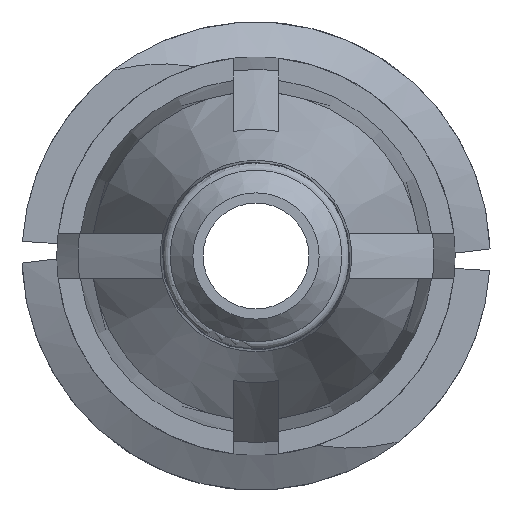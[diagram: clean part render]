
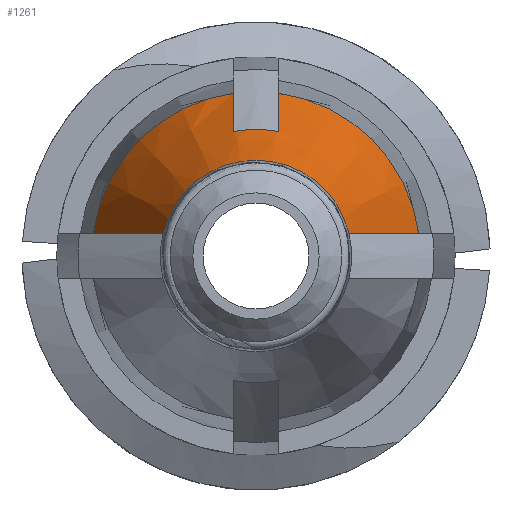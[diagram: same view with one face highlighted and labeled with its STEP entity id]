
A CAD part, front view. The second image highlights one B-rep face of the part: STEP entity #1261.
In plain terms, the highlighted conical face has half-angle 20 degrees and reference radius 2.745 mm.
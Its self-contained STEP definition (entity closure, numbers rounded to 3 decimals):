
#8 = CIRCLE ( 'NONE', #1195, 2.117 ) ;
#15 = VERTEX_POINT ( 'NONE', #1209 ) ;
#48 = B_SPLINE_CURVE_WITH_KNOTS ( 'NONE', 3,
 ( #761, #294, #893, #269 ),
 .UNSPECIFIED., .F., .F.,
 ( 4, 4 ),
 ( 0.003, 0.007 ),
 .UNSPECIFIED. ) ;
#50 = EDGE_CURVE ( 'NONE', #1423, #15, #786, .T. ) ;
#82 = CARTESIAN_POINT ( 'NONE',  ( 0.381, -10.312, 2.719 ) ) ;
#87 = ORIENTED_EDGE ( 'NONE', *, *, #1105, .T. ) ;
#113 = CARTESIAN_POINT ( 'NONE',  ( -2.719, -10.312, 0.381 ) ) ;
#131 = EDGE_CURVE ( 'NONE', #854, #1712, #755, .T. ) ;
#210 = CIRCLE ( 'NONE', #1596, 1.6 ) ;
#219 = CARTESIAN_POINT ( 'NONE',  ( -0.381, -11.463, 2.295 ) ) ;
#269 = CARTESIAN_POINT ( 'NONE',  ( 1.554, -13.458, 0.381 ) ) ;
#271 = CARTESIAN_POINT ( 'NONE',  ( 0., -10.312, 0. ) ) ;
#286 = CARTESIAN_POINT ( 'NONE',  ( -2.333, -11.362, 0.381 ) ) ;
#294 = CARTESIAN_POINT ( 'NONE',  ( 2.333, -11.362, 0.381 ) ) ;
#298 = B_SPLINE_CURVE_WITH_KNOTS ( 'NONE', 3,
 ( #1721, #424, #876, #1556 ),
 .UNSPECIFIED., .F., .F.,
 ( 4, 4 ),
 ( 0.003, 0.005 ),
 .UNSPECIFIED. ) ;
#359 = VERTEX_POINT ( 'NONE', #688 ) ;
#384 = VERTEX_POINT ( 'NONE', #872 ) ;
#389 = DIRECTION ( 'NONE',  ( 1., 0., 0. ) ) ;
#424 = CARTESIAN_POINT ( 'NONE',  ( 0.381, -10.888, 2.507 ) ) ;
#441 = EDGE_CURVE ( 'NONE', #2073, #359, #603, .T. ) ;
#543 = ORIENTED_EDGE ( 'NONE', *, *, #1826, .F. ) ;
#557 = EDGE_CURVE ( 'NONE', #854, #359, #2067, .T. ) ;
#564 = DIRECTION ( 'NONE',  ( 1., 0., 0. ) ) ;
#603 = B_SPLINE_CURVE_WITH_KNOTS ( 'NONE', 3,
 ( #855, #219, #864, #697 ),
 .UNSPECIFIED., .F., .F.,
 ( 4, 4 ),
 ( 0.002, 0.004 ),
 .UNSPECIFIED. ) ;
#633 = CARTESIAN_POINT ( 'NONE',  ( 0., -10.312, 0. ) ) ;
#665 = EDGE_CURVE ( 'NONE', #1712, #384, #210, .T. ) ;
#687 = ORIENTED_EDGE ( 'NONE', *, *, #1569, .T. ) ;
#688 = CARTESIAN_POINT ( 'NONE',  ( -0.381, -10.312, 2.719 ) ) ;
#697 = CARTESIAN_POINT ( 'NONE',  ( -0.381, -10.312, 2.719 ) ) ;
#755 = B_SPLINE_CURVE_WITH_KNOTS ( 'NONE', 3,
 ( #113, #286, #1382, #774 ),
 .UNSPECIFIED., .F., .F.,
 ( 4, 4 ),
 ( 0.003, 0.007 ),
 .UNSPECIFIED. ) ;
#761 = CARTESIAN_POINT ( 'NONE',  ( 2.719, -10.312, 0.381 ) ) ;
#774 = CARTESIAN_POINT ( 'NONE',  ( -1.554, -13.458, 0.381 ) ) ;
#786 = CIRCLE ( 'NONE', #2028, 2.745 ) ;
#794 = DIRECTION ( 'NONE',  ( 0., 1., 0. ) ) ;
#830 = DIRECTION ( 'NONE',  ( 0., 1., 0. ) ) ;
#854 = VERTEX_POINT ( 'NONE', #1558 ) ;
#855 = CARTESIAN_POINT ( 'NONE',  ( -0.381, -12.038, 2.082 ) ) ;
#864 = CARTESIAN_POINT ( 'NONE',  ( -0.381, -10.888, 2.507 ) ) ;
#872 = CARTESIAN_POINT ( 'NONE',  ( 1.554, -13.458, 0.381 ) ) ;
#876 = CARTESIAN_POINT ( 'NONE',  ( 0.381, -11.463, 2.295 ) ) ;
#893 = CARTESIAN_POINT ( 'NONE',  ( 1.947, -12.411, 0.381 ) ) ;
#916 = DIRECTION ( 'NONE',  ( 0., 1., 0. ) ) ;
#983 = DIRECTION ( 'NONE',  ( 1., 0., 0. ) ) ;
#1007 = CARTESIAN_POINT ( 'NONE',  ( -1.554, -13.458, 0.381 ) ) ;
#1066 = ORIENTED_EDGE ( 'NONE', *, *, #665, .T. ) ;
#1095 = DIRECTION ( 'NONE',  ( -1., 0., 0. ) ) ;
#1105 = EDGE_CURVE ( 'NONE', #1423, #1111, #298, .T. ) ;
#1111 = VERTEX_POINT ( 'NONE', #1854 ) ;
#1126 = DIRECTION ( 'NONE',  ( 1., 0., 0. ) ) ;
#1127 = AXIS2_PLACEMENT_3D ( 'NONE', #633, #1139, #1126 ) ;
#1139 = DIRECTION ( 'NONE',  ( 0., 1., 0. ) ) ;
#1176 = ORIENTED_EDGE ( 'NONE', *, *, #557, .F. ) ;
#1195 = AXIS2_PLACEMENT_3D ( 'NONE', #1453, #1626, #1095 ) ;
#1209 = CARTESIAN_POINT ( 'NONE',  ( 2.719, -10.312, 0.381 ) ) ;
#1247 = ORIENTED_EDGE ( 'NONE', *, *, #50, .F. ) ;
#1261 = ADVANCED_FACE ( 'NONE', ( #2050 ), #1800, .T. ) ;
#1382 = CARTESIAN_POINT ( 'NONE',  ( -1.947, -12.411, 0.381 ) ) ;
#1423 = VERTEX_POINT ( 'NONE', #82 ) ;
#1453 = CARTESIAN_POINT ( 'NONE',  ( 0., -12.038, 0. ) ) ;
#1467 = ORIENTED_EDGE ( 'NONE', *, *, #441, .T. ) ;
#1556 = CARTESIAN_POINT ( 'NONE',  ( 0.381, -12.038, 2.082 ) ) ;
#1558 = CARTESIAN_POINT ( 'NONE',  ( -2.719, -10.312, 0.381 ) ) ;
#1569 = EDGE_CURVE ( 'NONE', #1111, #2073, #8, .T. ) ;
#1596 = AXIS2_PLACEMENT_3D ( 'NONE', #2090, #794, #983 ) ;
#1602 = ORIENTED_EDGE ( 'NONE', *, *, #131, .T. ) ;
#1626 = DIRECTION ( 'NONE',  ( 0., -1., 0. ) ) ;
#1699 = CARTESIAN_POINT ( 'NONE',  ( -0.381, -12.038, 2.082 ) ) ;
#1712 = VERTEX_POINT ( 'NONE', #1007 ) ;
#1721 = CARTESIAN_POINT ( 'NONE',  ( 0.381, -10.312, 2.719 ) ) ;
#1800 = CONICAL_SURFACE ( 'NONE', #1127, 2.745, 0.349 ) ;
#1826 = EDGE_CURVE ( 'NONE', #15, #384, #48, .T. ) ;
#1854 = CARTESIAN_POINT ( 'NONE',  ( 0.381, -12.038, 2.082 ) ) ;
#1935 = AXIS2_PLACEMENT_3D ( 'NONE', #271, #916, #564 ) ;
#1951 = CARTESIAN_POINT ( 'NONE',  ( 0., -10.312, 0. ) ) ;
#1954 = EDGE_LOOP ( 'NONE', ( #543, #1247, #87, #687, #1467, #1176, #1602, #1066 ) ) ;
#2028 = AXIS2_PLACEMENT_3D ( 'NONE', #1951, #830, #389 ) ;
#2050 = FACE_OUTER_BOUND ( 'NONE', #1954, .T. ) ;
#2067 = CIRCLE ( 'NONE', #1935, 2.745 ) ;
#2073 = VERTEX_POINT ( 'NONE', #1699 ) ;
#2090 = CARTESIAN_POINT ( 'NONE',  ( 0., -13.458, 0. ) ) ;
